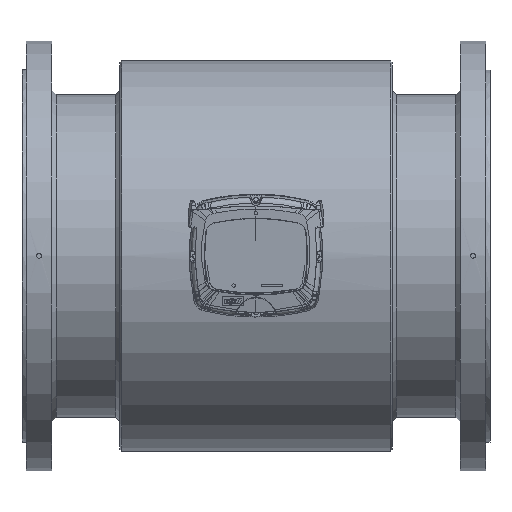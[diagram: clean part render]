
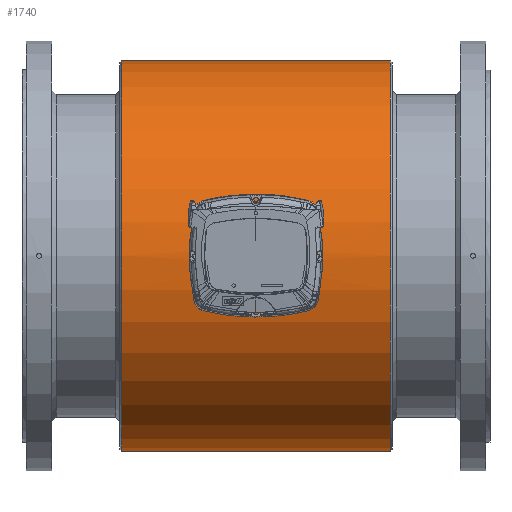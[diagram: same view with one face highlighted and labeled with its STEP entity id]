
A CAD part, top view. The second image highlights one B-rep face of the part: STEP entity #1740.
In plain terms, the highlighted cylindrical face has radius 229.5 mm (diameter 459 mm), a full revolution.
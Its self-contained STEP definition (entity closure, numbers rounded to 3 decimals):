
#1676=CARTESIAN_POINT('',(0.,-11.498,229.212));
#1677=VERTEX_POINT('',#1676);
#1687=CARTESIAN_POINT('',(0.,-11.498,229.212));
#1688=CARTESIAN_POINT('',(1.74,-11.498,229.212));
#1689=CARTESIAN_POINT('',(5.218,-10.712,229.253));
#1690=CARTESIAN_POINT('',(9.402,-7.415,229.393));
#1691=CARTESIAN_POINT('',(11.724,-2.647,229.505));
#1692=CARTESIAN_POINT('',(11.724,2.648,229.504));
#1693=CARTESIAN_POINT('',(9.401,7.411,229.393));
#1694=CARTESIAN_POINT('',(4.753,11.087,229.236));
#1695=CARTESIAN_POINT('',(-0.636,11.888,229.191));
#1696=CARTESIAN_POINT('',(-6.249,10.175,229.278));
#1697=CARTESIAN_POINT('',(-9.795,6.92,229.412));
#1698=CARTESIAN_POINT('',(-11.722,2.055,229.505));
#1699=CARTESIAN_POINT('',(-11.725,-2.645,229.504));
#1700=CARTESIAN_POINT('',(-9.4,-7.416,229.393));
#1701=CARTESIAN_POINT('',(-5.218,-10.712,229.253));
#1702=CARTESIAN_POINT('',(-1.739,-11.498,229.212));
#1703=CARTESIAN_POINT('',(0.,-11.498,229.212));
#1704=B_SPLINE_CURVE_WITH_KNOTS('',3,(#1687,#1688,#1689,#1690,#1691,#1692,#1693,#1694,#1695,#1696,#1697,#1698,#1699,#1700,#1701,#1702,#1703),.UNSPECIFIED.,.T.,.U.,(4,1,1,1,1,1,1,1,1,1,1,1,1,1,4),(-7.274,-6.755,-6.235,-5.715,-5.196,-4.676,-4.157,-3.464,-3.118,-2.425,-2.078,-1.559,-1.039,-0.52,0.0),.UNSPECIFIED.);
#1705=EDGE_CURVE('',#1677,#1677,#1704,.T.);
#1710=CARTESIAN_POINT('',(79.,0.0,0.0));
#1711=DIRECTION('',(1.0,0.0,0.0));
#1712=DIRECTION('',(0.0,1.0,0.0));
#1713=AXIS2_PLACEMENT_3D('',#1710,#1711,#1712);
#1714=CYLINDRICAL_SURFACE('',#1713,229.5);
#1715=CARTESIAN_POINT('',(-158.,229.5,0.0));
#1716=VERTEX_POINT('',#1715);
#1717=CARTESIAN_POINT('',(-158.,0.0,0.0));
#1718=DIRECTION('',(1.0,0.0,0.0));
#1719=DIRECTION('',(0.0,1.0,0.0));
#1720=AXIS2_PLACEMENT_3D('',#1717,#1718,#1719);
#1721=CIRCLE('',#1720,229.5);
#1722=EDGE_CURVE('',#1716,#1716,#1721,.T.);
#1723=ORIENTED_EDGE('',*,*,#1722,.T.);
#1724=EDGE_LOOP('',(#1723));
#1725=FACE_OUTER_BOUND('',#1724,.T.);
#1726=CARTESIAN_POINT('',(158.0,229.5,0.0));
#1727=VERTEX_POINT('',#1726);
#1728=CARTESIAN_POINT('',(158.0,0.0,0.0));
#1729=DIRECTION('',(1.0,0.0,0.0));
#1730=DIRECTION('',(0.0,1.0,0.0));
#1731=AXIS2_PLACEMENT_3D('',#1728,#1729,#1730);
#1732=CIRCLE('',#1731,229.5);
#1733=EDGE_CURVE('',#1727,#1727,#1732,.T.);
#1734=ORIENTED_EDGE('',*,*,#1733,.F.);
#1735=EDGE_LOOP('',(#1734));
#1736=FACE_BOUND('',#1735,.T.);
#1737=ORIENTED_EDGE('',*,*,#1705,.F.);
#1738=EDGE_LOOP('',(#1737));
#1739=FACE_BOUND('',#1738,.T.);
#1740=ADVANCED_FACE('',(#1725,#1736,#1739),#1714,.T.);
